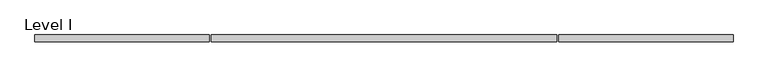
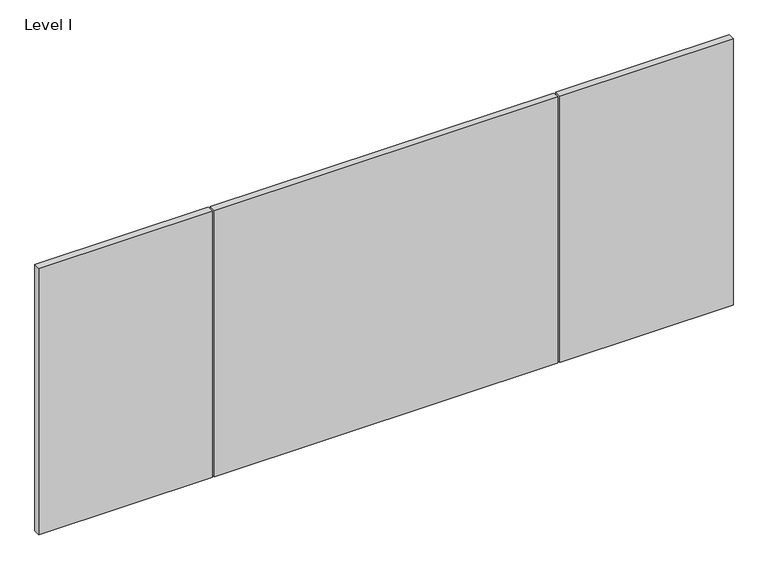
"""IFC4 building model written with IfcOpenShell, lengths in millimetres: proxy geometry, Panel-Fascia-Teknion-Altos-Landscape_Desk : Level I."""

import ifcopenshell
import ifcopenshell.guid

model = None  # the IFC model being written
_history = None  # IfcOwnerHistory: only IFC2X3 demands one
_inside = {}  # id of a spatial element -> (the spatial element, [elements in it])
_under = {}  # id of a project, library or spatial element -> (it, [spatial elements below it])
_declared = {}  # id of a project -> (the project, [libraries it declares])
_typed = {}  # id of a type object -> (the type object, [elements of that type])
_made_of = {}  # id of a material, layer set ... -> (it, [elements and type objects made of it])


def new_model(schema):
    """Start an empty IFC model of exactly this schema.

    Asked for "IFC4X3", IfcOpenShell would pick the latest addendum, in which some entities
    have other attributes; the version numbers below select the first issue.
    IFC2X3 requires an IfcOwnerHistory on every rooted entity: one is made here for all.
    """
    global model, _history
    if schema == "IFC4X3":
        model = ifcopenshell.file(schema_version=(4, 3, 0, 0))
    else:
        model = ifcopenshell.file(schema=schema)
    _inside.clear()
    _under.clear()
    _declared.clear()
    _typed.clear()
    _made_of.clear()
    _history = None
    if model.schema == "IFC2X3":
        org = make("IfcOrganization", Name="unknown")
        user = make(
            "IfcPersonAndOrganization",
            ThePerson=make("IfcPerson", FamilyName="unknown"),
            TheOrganization=org,
        )
        app = make(
            "IfcApplication",
            ApplicationDeveloper=org,
            Version="unknown",
            ApplicationFullName="unknown",
            ApplicationIdentifier="unknown",
        )
        _history = make(
            "IfcOwnerHistory",
            OwningUser=user,
            OwningApplication=app,
            ChangeAction="ADDED",
            CreationDate=0,
        )
    return model


def make(cls, **values):
    """One entity of the class cls with the attributes given. An attribute that is None is left unset."""
    return model.create_entity(
        cls, **{name: value for name, value in values.items() if value is not None}
    )


def rooted(cls, **values):
    """An entity with a GlobalId (a new one), such as an element, a storey or a relation."""
    return make(cls, GlobalId=ifcopenshell.guid.new(), OwnerHistory=_history, **values)


def si_unit(unit_type, name, prefix=None):
    """IfcSIUnit, for example si_unit("LENGTHUNIT", "METRE", prefix="MILLI")."""
    return make("IfcSIUnit", UnitType=unit_type, Prefix=prefix, Name=name)


def assignment(units):
    """IfcUnitAssignment: the units of a project."""
    return None if units is None else make("IfcUnitAssignment", Units=units)


def point(xyz):
    """IfcCartesianPoint."""
    return None if xyz is None else make("IfcCartesianPoint", Coordinates=xyz)


def direction(xyz):
    """IfcDirection."""
    return None if xyz is None else make("IfcDirection", DirectionRatios=xyz)


def frame(location, z_axis=None, x_axis=None):
    """IfcAxis2Placement3D, a coordinate frame: its origin and axes. An axis left out is left unset."""
    return make(
        "IfcAxis2Placement3D",
        Location=point(location),
        Axis=direction(z_axis),
        RefDirection=direction(x_axis),
    )


def origin():
    """The frame at (0, 0, 0) with its axes left unset."""
    return frame((0.0, 0.0, 0.0))


def place(relative_to, where):
    """IfcLocalPlacement: puts the frame where relative to a parent placement (None: the world)."""
    return make(
        "IfcLocalPlacement", PlacementRelTo=relative_to, RelativePlacement=where
    )


def context(
    kind, dimensions, precision=None, world=None, true_north=None, identifier=None
):
    """IfcGeometricRepresentationContext, for example the 3D "Model" context."""
    return make(
        "IfcGeometricRepresentationContext",
        ContextIdentifier=identifier,
        ContextType=kind,
        CoordinateSpaceDimension=dimensions,
        Precision=precision,
        WorldCoordinateSystem=world,
        TrueNorth=true_north,
    )


def project(units=None, contexts=None):
    """IfcProject with its units and contexts."""
    return rooted(
        "IfcProject",
        Name="project",
        RepresentationContexts=contexts,
        UnitsInContext=assignment(units),
    )


def spatial(cls, under=None, at=None, **own):
    """A site, building, storey or space (cls), placed at a placement, below another one or the project."""
    s = rooted(cls, ObjectPlacement=at, **own)
    if under is not None:
        _under.setdefault(under.id(), (under, []))[1].append(s)
    return s


def polyline(points):
    """IfcPolyline through the points."""
    return make("IfcPolyline", Points=[point(p) for p in points])


def outline(outer, holes=None, kind="AREA"):
    """IfcArbitraryClosedProfileDef: a profile drawn as a closed curve; with holes, ...WithVoids."""
    if holes is None:
        return make("IfcArbitraryClosedProfileDef", ProfileType=kind, OuterCurve=outer)
    return make(
        "IfcArbitraryProfileDefWithVoids",
        ProfileType=kind,
        OuterCurve=outer,
        InnerCurves=holes,
    )


def extrude(swept, where, along, depth):
    """IfcExtrudedAreaSolid: the profile swept, set in the frame where, extruded along a direction by depth."""
    return make(
        "IfcExtrudedAreaSolid",
        SweptArea=swept,
        Position=where,
        ExtrudedDirection=direction(along),
        Depth=depth,
    )


def shape(context_of_items, identifier, shape_type, items):
    """IfcShapeRepresentation: the items that make up one representation, for example the "Body"."""
    return make(
        "IfcShapeRepresentation",
        ContextOfItems=context_of_items,
        RepresentationIdentifier=identifier,
        RepresentationType=shape_type,
        Items=items,
    )


def source(mapping_origin, context_of_items, identifier, shape_type, items):
    """IfcRepresentationMap: a shape defined once, which mapped items show again and again."""
    return make(
        "IfcRepresentationMap",
        MappingOrigin=mapping_origin,
        MappedRepresentation=shape(context_of_items, identifier, shape_type, items),
    )


def transform(
    local_origin,
    x_axis=None,
    y_axis=None,
    z_axis=None,
    scale=None,
    scale2=None,
    scale3=None,
    uniform=True,
):
    """IfcCartesianTransformationOperator3D, or its non-uniform kind. x_axis, y_axis, z_axis: its Axis1, 2, 3."""
    if uniform:
        return make(
            "IfcCartesianTransformationOperator3D",
            Axis1=direction(x_axis),
            Axis2=direction(y_axis),
            LocalOrigin=point(local_origin),
            Scale=scale,
            Axis3=direction(z_axis),
        )
    return make(
        "IfcCartesianTransformationOperator3DnonUniform",
        Axis1=direction(x_axis),
        Axis2=direction(y_axis),
        LocalOrigin=point(local_origin),
        Scale=scale,
        Axis3=direction(z_axis),
        Scale2=scale2,
        Scale3=scale3,
    )


def mapped(mapping_source, mapping_target):
    """IfcMappedItem: shows the shape of a source again, moved by a transform."""
    return make(
        "IfcMappedItem", MappingSource=mapping_source, MappingTarget=mapping_target
    )


def made_of(thing, what):
    """Note that an element or type object is made of a material, layer set ...; save() writes the relation."""
    if what is not None:
        _made_of.setdefault(what.id(), (what, []))[1].append(thing)
    return thing


def element(
    cls,
    number,
    at=None,
    inside=None,
    cuts=None,
    type_object=None,
    material=None,
    context=None,
    identifier="Body",
    shape_type=None,
    held_by="IfcProductDefinitionShape",
    body=None,
    shapes=None,
    **own,
):
    """One element of the class cls, such as IfcWall. Its Tag is "e" and its number.

    at: its placement. inside: the storey or other place that contains it. cuts: it is an
    opening in that element (IfcRelVoidsElement). A single representation is given by context,
    identifier, shape_type and body (its items); several are given by shapes. held_by: the class
    of the entity that holds the representations. save() writes the other relations.
    """
    e = rooted(cls, Tag="e%d" % number, ObjectPlacement=at, **own)
    if body is not None:
        shapes = [shape(context, identifier, shape_type, body)]
    if shapes is not None:
        e.Representation = make(held_by, Representations=shapes)
    if inside is not None:
        _inside.setdefault(inside.id(), (inside, []))[1].append(e)
    if cuts is not None:
        rooted(
            "IfcRelVoidsElement", RelatingBuildingElement=cuts, RelatedOpeningElement=e
        )
    if type_object is not None:
        _typed.setdefault(type_object.id(), (type_object, []))[1].append(e)
    return made_of(e, material)


def aggregate(whole, parts):
    """IfcRelAggregates: a whole, such as a stair, and the parts it consists of."""
    return rooted("IfcRelAggregates", RelatingObject=whole, RelatedObjects=parts)


def save(model, path):
    """Write the relations noted so far, then the file.

    IfcRelAggregates (storeys below a building ...), IfcRelContainedInSpatialStructure (elements
    in a storey), IfcRelDefinesByType, IfcRelAssociatesMaterial and IfcRelDeclares: one each for
    every whole, place, type object, material and project.
    """
    for whole, parts in _under.values():
        aggregate(whole, parts)
    for where, things in _inside.values():
        rooted(
            "IfcRelContainedInSpatialStructure",
            RelatedElements=things,
            RelatingStructure=where,
        )
    for kind, things in _typed.values():
        rooted("IfcRelDefinesByType", RelatedObjects=things, RelatingType=kind)
    for what, things in _made_of.values():
        rooted("IfcRelAssociatesMaterial", RelatedObjects=things, RelatingMaterial=what)
    for by, libraries in _declared.values():
        rooted("IfcRelDeclares", RelatingContext=by, RelatedDefinitions=libraries)
    model.write(path)


def level_i_a92b6f2e(model_context):
    return source(origin(), model_context, "Body", "SweptSolid", [
        extrude(outline(polyline([(-998.8407125, -9.525), (-998.8407125, 9.525), (-500.0498, 9.525), (-500.0498, -9.525), (-998.8407125, -9.525)])), frame((0.0, 0.0, 3.175), z_axis=(0.0, 0.0, 1.0), x_axis=(1.0, 0.0, 0.0)), (0.0, 0.0, 1.0), 810.768),
        extrude(outline(polyline([(998.8407125, 9.525), (998.8407125, -9.525), (500.0498, -9.525), (500.0498, 9.525), (998.8407125, 9.525)])), frame((0.0, 0.0, 3.175), z_axis=(0.0, 0.0, 1.0), x_axis=(1.0, 0.0, 0.0)), (0.0, 0.0, 1.0), 810.768),
        extrude(outline(polyline([(493.6998, -9.525), (-493.6998, -9.525), (-493.6998, 9.525), (493.6998, 9.525), (493.6998, -9.525)])), frame((0.0, 0.0, 3.175), z_axis=(0.0, 0.0, 1.0), x_axis=(1.0, 0.0, 0.0)), (0.0, 0.0, 1.0), 810.768),
    ])


if __name__ == "__main__":
    model = new_model("IFC4")
    model_context = context("Model", 3, world=origin())
    ifc_project = project(units=[si_unit("LENGTHUNIT", "METRE", prefix="MILLI")], contexts=[model_context])
    site = spatial("IfcSite", under=ifc_project)
    building = spatial("IfcBuilding", under=site)
    placement = place(None, origin())
    level_i_shape = level_i_a92b6f2e(model_context)
    element("IfcBuildingElementProxy", 1, Name="Panel-Fascia-Teknion-Altos-Landscape_Desk : Level I", ObjectType="Panel-Fascia-Teknion-Altos-Landscape_Desk : Level I", at=placement, inside=building, context=model_context, shape_type="MappedRepresentation", body=[
        mapped(level_i_shape, transform((0.0, 0.0, 0.0), x_axis=(1.0, 0.0, 0.0), y_axis=(0.0, 1.0, 0.0), z_axis=(0.0, 0.0, 1.0))),
    ])
    save(model, "model.ifc")
